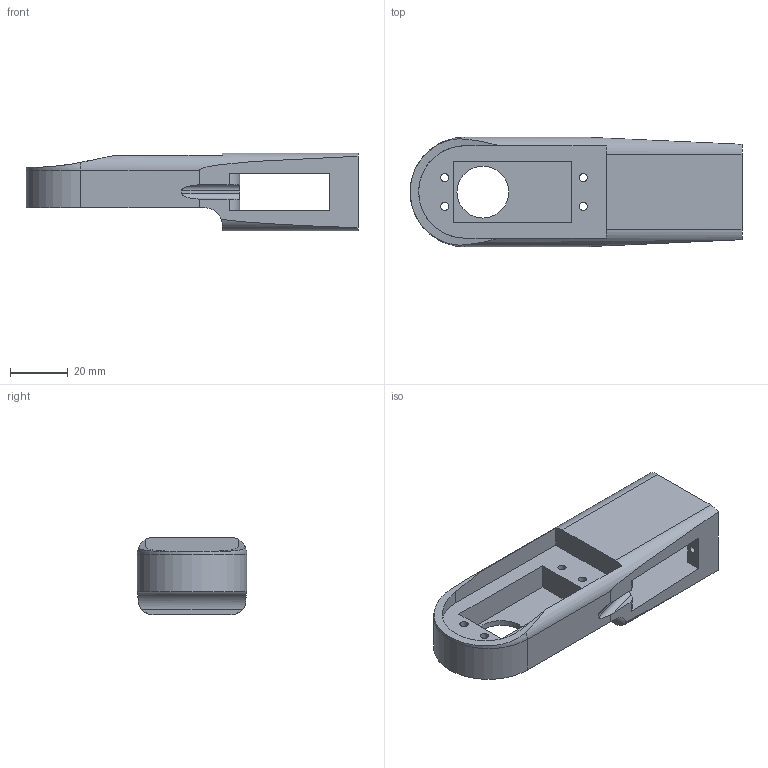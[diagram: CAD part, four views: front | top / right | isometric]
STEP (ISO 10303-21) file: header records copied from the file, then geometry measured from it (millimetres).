
FILE_DESCRIPTION(/* description */ (''),/* implementation_level */ '2;1');
FILE_NAME(/* name */ 'Arm 02.step',/* time_stamp */ '2024-01-03T12:00:20+05:30',/* author */ (''),/* organization */ (''),/* preprocessor_version */ 'ST-DEVELOPER v20',/* originating_system */ 'Autodesk Translation Framework v12.14.0.127',/* authorisation */ '');
FILE_SCHEMA (('AUTOMOTIVE_DESIGN { 1 0 10303 214 3 1 1 }'));
Length unit declared in the file: millimetre
Products named in the file (1): Arm 02
Bounding box: 115 x 38 x 27 mm (x, y, z)
Volume: 47097.4 mm3; surface area: 18992.7 mm2
Topology: 1 solids, 1 shells, 62 faces, 172 edges, 112 vertices
Faces by surface type: plane 37, cylinder 23, bspline 1, torus 1
Full cylindrical faces by diameter (mm): 2.2 x2, 2.8 x4, 13 x1, 18 x1
Entity records: 2242 total; most frequent: CARTESIAN_POINT 568, ORIENTED_EDGE 344, DIRECTION 339, EDGE_CURVE 172, AXIS2_PLACEMENT_3D 117, VERTEX_POINT 112, LINE 105, VECTOR 105
